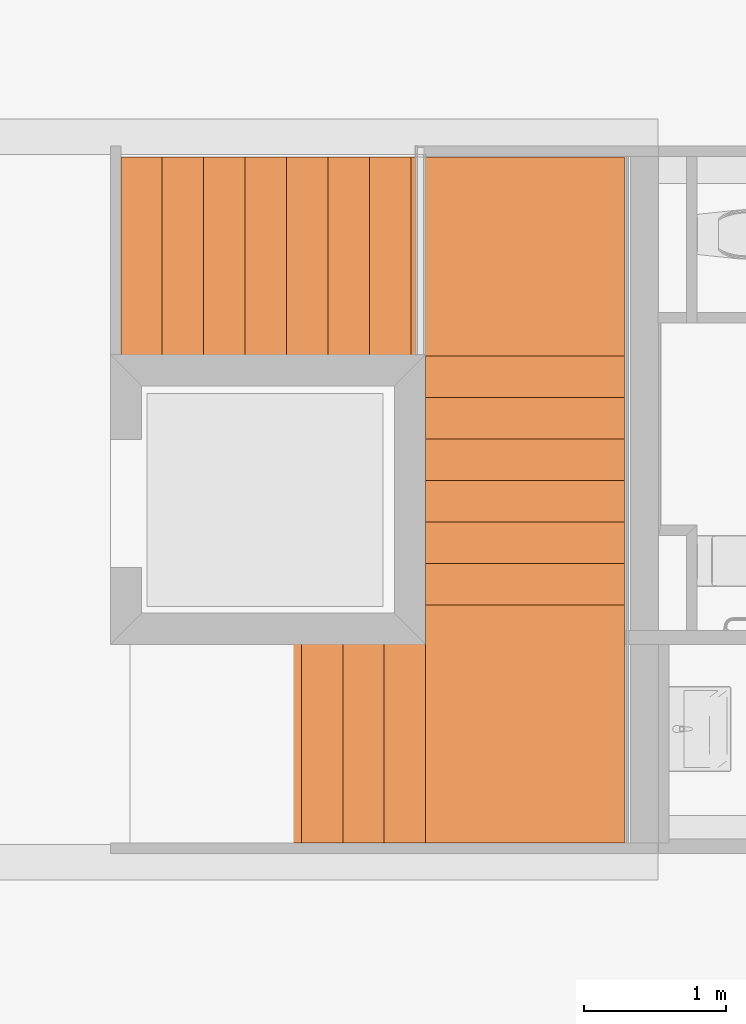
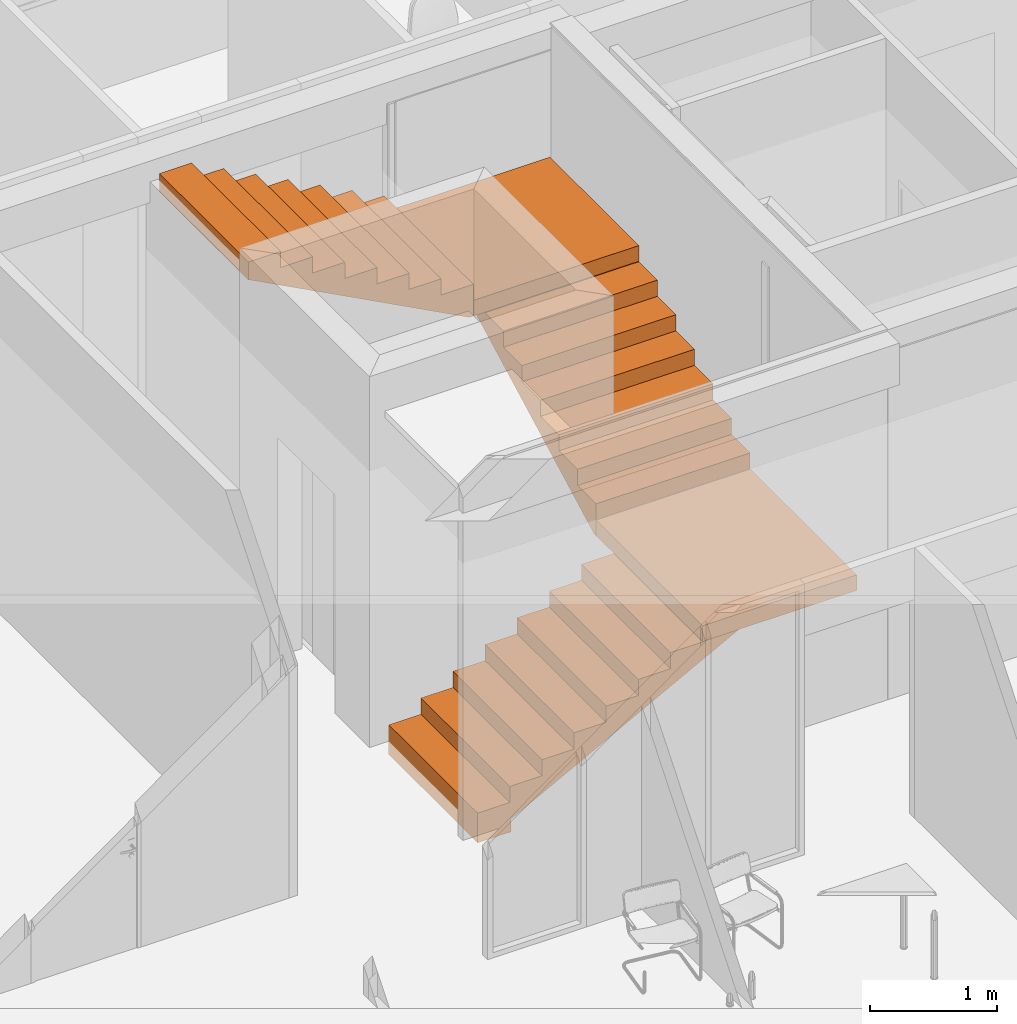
# One storey, part 90 of 91: 5 proxies, 1 element without a shape of its own.
"""IFC2X3 building model written with IfcOpenShell, lengths in metres."""

from ifc_helpers import new_model, entity, si_unit, converted_unit, derived_unit, money_unit, direction, frame, origin_with_axes, place, context, subcontext, project, spatial, faceted_brep, material, type_object, element, aggregate, save


model = new_model("IFC2X3")

# Units and contexts
model_context = context("Model", 3, precision=1e-05, world=origin_with_axes(), true_north=direction((0.0, 1.0)))
body_context = subcontext(model_context, "Body", "Model", "MODEL_VIEW")
ifc_project = project(units=[si_unit("LENGTHUNIT", "METRE"), si_unit("AREAUNIT", "SQUARE_METRE"), si_unit("VOLUMEUNIT", "CUBIC_METRE"), converted_unit("PLANEANGLEUNIT", "DEGREE", entity("IfcPlaneAngleMeasure", 0.0174532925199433), si_unit("PLANEANGLEUNIT", "RADIAN"), dimensions=[0, 0, 0, 0, 0, 0, 0]), money_unit("EUR"), converted_unit("TIMEUNIT", "Year", entity("IfcTimeMeasure", 31557600.0), si_unit("TIMEUNIT", "SECOND"), dimensions=[0, 0, 1, 0, 0, 0, 0]), si_unit("MASSUNIT", "GRAM", prefix="KILO"), si_unit("THERMODYNAMICTEMPERATUREUNIT", "DEGREE_CELSIUS"), si_unit("LUMINOUSINTENSITYUNIT", "LUMEN"), si_unit("ENERGYUNIT", "JOULE", prefix="MEGA"), derived_unit("THERMALCONDUCTANCEUNIT", [(si_unit("POWERUNIT", "WATT"), 1), (si_unit("LENGTHUNIT", "METRE"), -1), (si_unit("THERMODYNAMICTEMPERATUREUNIT", "KELVIN"), -1)]), derived_unit("SPECIFICHEATCAPACITYUNIT", [(si_unit("ENERGYUNIT", "JOULE"), 1), (si_unit("MASSUNIT", "GRAM", prefix="KILO"), -1), (si_unit("THERMODYNAMICTEMPERATUREUNIT", "KELVIN"), -1)]), derived_unit("MASSDENSITYUNIT", [(si_unit("MASSUNIT", "GRAM", prefix="KILO"), 1), (si_unit("VOLUMEUNIT", "CUBIC_METRE"), -1)])], contexts=[model_context])

# Site, building, storey
site_placement = place(None, origin_with_axes())
site = spatial("IfcSite", under=ifc_project, at=site_placement, Name="Site", CompositionType="ELEMENT")
building_placement = place(site_placement, origin_with_axes())
building = spatial("IfcBuilding", under=site, at=building_placement, Name="Bâtiment", CompositionType="ELEMENT")
storey_placement = place(building_placement, origin_with_axes())
storey = spatial("IfcBuildingStorey", under=building, at=storey_placement, Name="RDC", CompositionType="ELEMENT", Elevation=0.0)

# Proxies
building_element_proxy_type_1 = type_object("IfcBuildingElementProxyType", Name="Type d'escalier", PredefinedType="NOTDEFINED")
proxy_1_placement = place(storey_placement, frame((33.41300800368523, -20.97356469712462, 0.0), z_axis=(0.0, 0.0, 1.0), x_axis=(0.0, 1.0, 0.0)))
proxy_1 = element("IfcBuildingElementProxy", 1, at=proxy_1_placement, inside=storey, type_object=building_element_proxy_type_1, Name="ESC-004")
ifc_material = material(Name="Béton")
building_element_proxy_type_2 = type_object("IfcBuildingElementProxyType", Name="IfcBuildingElementProxy", PredefinedType="NOTDEFINED")
proxy_2_placement = place(proxy_1_placement, origin_with_axes())
proxy_2 = element("IfcBuildingElementProxy", 2, at=proxy_2_placement, type_object=building_element_proxy_type_2, material=ifc_material, Name="VOLEE-008", context=body_context, shape_type="Brep", body=[
    faceted_brep([(-0.5499972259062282, -3.000000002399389, 1.083478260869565), (0.8500027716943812, -3.000000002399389, 1.083478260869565), (0.8500027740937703, -2.708266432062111, 1.083478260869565), (-0.5499972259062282, -2.708266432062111, 1.083478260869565), (-0.5499972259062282, -3.000000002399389, 1.088260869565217), (0.8500027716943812, -3.000000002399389, 1.088260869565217), (0.8500027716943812, -3.000000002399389, 0.9136735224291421), (0.8500027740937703, -2.902755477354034, 0.8620793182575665), (0.8500027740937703, -2.805510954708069, 0.8104851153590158), (0.8500027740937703, -2.708266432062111, 0.7588909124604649), (0.8500027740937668, -2.611021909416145, 0.7072967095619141), (0.8500027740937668, -2.51377738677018, 0.6557025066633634), (0.8500027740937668, -2.416532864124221, 0.6041083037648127), (0.8500027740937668, -2.319288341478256, 0.5525141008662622), (0.8500027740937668, -2.22204381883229, 0.5009198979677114), (0.8500027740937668, -2.124799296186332, 0.4493256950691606), (0.8500027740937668, -2.027554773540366, 0.3977314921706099), (0.8500027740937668, -1.930310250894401, 0.3461372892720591), (0.8500027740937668, -1.833065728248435, 0.2945430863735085), (0.8500027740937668, -1.735821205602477, 0.2429488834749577), (0.8500027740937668, -1.638576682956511, 0.191354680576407), (0.8500027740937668, -1.541332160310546, 0.1397604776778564), (0.8500027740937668, -1.444087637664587, 0.0881662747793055), (0.8500027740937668, -1.346843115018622, 0.03657207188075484), (0.8500027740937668, -1.257865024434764, -0.01063628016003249), (0.8500027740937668, -1.257865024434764, -0.13), (0.8500027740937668, -0.9578650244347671, -0.13), (0.8500027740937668, -0.9578650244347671, 0.1547826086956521), (0.8500027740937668, -1.249598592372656, 0.1547826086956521), (0.8500027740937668, -1.249598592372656, 0.3095652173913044), (0.8500027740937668, -1.541332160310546, 0.3095652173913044), (0.8500027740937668, -1.541332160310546, 0.4643478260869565), (0.8500027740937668, -1.833065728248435, 0.4643478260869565), (0.8500027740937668, -1.833065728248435, 0.6191304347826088), (0.8500027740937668, -2.124799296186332, 0.6191304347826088), (0.8500027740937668, -2.124799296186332, 0.7739130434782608), (0.8500027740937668, -2.416532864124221, 0.7739130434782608), (0.8500027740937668, -2.416532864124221, 0.9286956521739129), (0.8500027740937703, -2.708266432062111, 0.9286956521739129), (0.8500027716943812, -3.329061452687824, 1.088260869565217), (-0.5499972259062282, -2.708266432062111, 0.9286956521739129), (-0.5499972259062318, -2.416532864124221, 0.9286956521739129), (-0.5499972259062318, -2.416532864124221, 0.7739130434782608), (-0.5499972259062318, -2.124799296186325, 0.7739130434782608), (-0.5499972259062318, -2.124799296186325, 0.6191304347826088), (-0.5499972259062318, -1.833065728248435, 0.6191304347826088), (-0.5499972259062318, -1.833065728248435, 0.4643478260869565), (-0.5499972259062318, -1.541332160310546, 0.4643478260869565), (-0.5499972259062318, -1.541332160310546, 0.3095652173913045), (-0.5499972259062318, -1.249598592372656, 0.3095652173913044), (-0.5499972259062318, -1.249598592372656, 0.1547826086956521), (-0.5499972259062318, -0.9578650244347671, 0.1547826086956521), (-0.5499972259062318, -0.9578650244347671, -0.13), (-0.5499972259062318, -1.257865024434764, -0.13), (-0.5499972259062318, -1.257865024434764, -0.01063628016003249), (-0.5499972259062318, -1.346843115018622, 0.03657207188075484), (-0.5499972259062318, -1.444087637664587, 0.0881662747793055), (-0.5499972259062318, -1.541332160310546, 0.1397604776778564), (-0.5499972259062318, -1.638576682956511, 0.191354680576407), (-0.5499972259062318, -1.735821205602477, 0.2429488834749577), (-0.5499972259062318, -1.833065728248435, 0.2945430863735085), (-0.5499972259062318, -1.930310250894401, 0.3461372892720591), (-0.5499972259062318, -2.027554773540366, 0.3977314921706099), (-0.5499972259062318, -2.124799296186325, 0.4493256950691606), (-0.5499972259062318, -2.22204381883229, 0.5009198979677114), (-0.5499972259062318, -2.319288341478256, 0.5525141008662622), (-0.5499972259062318, -2.416532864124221, 0.6041083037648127), (-0.5499972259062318, -2.51377738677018, 0.6557025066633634), (-0.5499972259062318, -2.611021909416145, 0.7072967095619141), (-0.5499972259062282, -2.708266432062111, 0.7588909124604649), (-0.5499972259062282, -2.805510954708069, 0.8104851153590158), (-0.5499972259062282, -2.902755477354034, 0.8620793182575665), (-0.5499972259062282, -3.000000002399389, 0.9136735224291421), (-0.5499972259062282, -3.329061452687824, 1.088260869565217)], [[[0, 1, 2, 3]], [[1, 0, 4, 5]], [[6, 7, 8, 9, 10, 11, 12, 13, 14, 15, 16, 17, 18, 19, 20, 21, 22, 23, 24, 25, 26, 27, 28, 29, 30, 31, 32, 33, 34, 35, 36, 37, 38, 2, 1, 5, 39]], [[40, 3, 2, 38]], [[0, 3, 40, 41, 42, 43, 44, 45, 46, 47, 48, 49, 50, 51, 52, 53, 54, 55, 56, 57, 58, 59, 60, 61, 62, 63, 64, 65, 66, 67, 68, 69, 70, 71, 72, 73, 4]], [[39, 5, 4, 73]], [[72, 71, 7, 6, 39, 73]], [[71, 70, 8, 7]], [[70, 69, 9, 8]], [[69, 68, 10, 9]], [[68, 67, 11, 10]], [[67, 66, 12, 11]], [[66, 65, 13, 12]], [[65, 64, 14, 13]], [[64, 63, 15, 14]], [[63, 62, 16, 15]], [[62, 61, 17, 16]], [[61, 60, 18, 17]], [[60, 59, 19, 18]], [[59, 58, 20, 19]], [[58, 57, 21, 20]], [[57, 56, 22, 21]], [[56, 55, 23, 22]], [[55, 54, 24, 23]], [[25, 24, 54, 53]], [[25, 53, 52, 26]], [[51, 27, 26, 52]], [[28, 27, 51, 50]], [[50, 49, 29, 28]], [[30, 29, 49, 48]], [[48, 47, 31, 30]], [[32, 31, 47, 46]], [[46, 45, 33, 32]], [[34, 33, 45, 44]], [[44, 43, 35, 34]], [[36, 35, 43, 42]], [[42, 41, 37, 36]], [[38, 37, 41, 40]]]),
])
proxy_3_placement = place(proxy_1_placement, origin_with_axes())
proxy_3 = element("IfcBuildingElementProxy", 3, at=proxy_3_placement, type_object=building_element_proxy_type_2, material=ifc_material, Name="VOLEE-010", context=body_context, shape_type="Brep", body=[
    faceted_brep([(2.876000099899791, -4.399999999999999, 2.16695652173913), (2.876000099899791, -2.999999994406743, 2.16695652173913), (2.584266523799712, -3.0, 2.16695652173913), (2.584266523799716, -4.399999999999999, 2.16695652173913), (2.876000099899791, -4.399999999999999, 2.171739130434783), (2.876000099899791, -2.999999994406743, 2.171739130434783), (2.876000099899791, -2.999999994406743, 1.997151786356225), (2.77875556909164, -3.0, 1.945557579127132), (2.681511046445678, -3.0, 1.893963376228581), (2.584266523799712, -3.0, 1.84236917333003), (2.48702200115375, -3.0, 1.790774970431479), (2.389777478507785, -3.0, 1.739180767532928), (2.292532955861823, -3.0, 1.687586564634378), (2.195288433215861, -3.0, 1.635992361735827), (2.098043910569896, -3.0, 1.584398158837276), (2.000799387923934, -3.0, 1.532803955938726), (1.903554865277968, -3.0, 1.481209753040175), (1.806310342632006, -3.0, 1.429615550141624), (1.709065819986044, -3.0, 1.378021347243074), (1.611821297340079, -3.0, 1.326427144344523), (1.514576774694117, -3.0, 1.274832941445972), (1.417332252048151, -3.0, 1.223238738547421), (1.320087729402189, -3.0, 1.171644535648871), (1.222843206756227, -3.0, 1.12005033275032), (1.162926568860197, -3.0, 1.088260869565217), (1.125598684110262, -3.0, 1.088260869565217), (1.125598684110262, -3.0, 1.393043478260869), (1.417332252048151, -3.0, 1.393043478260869), (1.417332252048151, -3.0, 1.547826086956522), (1.709065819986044, -3.0, 1.547826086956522), (1.709065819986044, -3.0, 1.702608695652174), (2.000799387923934, -3.0, 1.702608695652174), (2.000799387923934, -3.0, 1.857391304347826), (2.292532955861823, -3.0, 1.857391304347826), (2.292532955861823, -3.0, 2.012173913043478), (2.584266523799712, -3.0, 2.012173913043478), (3.205061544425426, -2.999999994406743, 2.171739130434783), (2.584266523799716, -4.399999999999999, 2.012173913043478), (2.292532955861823, -4.399999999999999, 2.012173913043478), (2.292532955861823, -4.399999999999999, 1.857391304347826), (2.000799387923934, -4.399999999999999, 1.857391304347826), (2.000799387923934, -4.399999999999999, 1.702608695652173), (1.709065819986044, -4.399999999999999, 1.702608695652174), (1.709065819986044, -4.399999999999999, 1.547826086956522), (1.417332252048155, -4.399999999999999, 1.547826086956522), (1.417332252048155, -4.399999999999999, 1.393043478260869), (1.125598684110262, -4.399999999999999, 1.393043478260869), (1.125598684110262, -4.399999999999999, 1.088260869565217), (1.162926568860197, -4.399999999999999, 1.088260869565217), (1.222843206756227, -4.399999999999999, 1.12005033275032), (1.320087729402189, -4.399999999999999, 1.171644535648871), (1.417332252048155, -4.399999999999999, 1.223238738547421), (1.514576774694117, -4.399999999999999, 1.274832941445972), (1.611821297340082, -4.399999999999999, 1.326427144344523), (1.709065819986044, -4.399999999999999, 1.378021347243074), (1.806310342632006, -4.399999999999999, 1.429615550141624), (1.903554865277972, -4.399999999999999, 1.481209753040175), (2.000799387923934, -4.399999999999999, 1.532803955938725), (2.098043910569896, -4.399999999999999, 1.584398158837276), (2.195288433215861, -4.399999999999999, 1.635992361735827), (2.292532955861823, -4.399999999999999, 1.687586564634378), (2.389777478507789, -4.399999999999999, 1.739180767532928), (2.48702200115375, -4.399999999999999, 1.790774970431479), (2.584266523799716, -4.399999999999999, 1.84236917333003), (2.681511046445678, -4.399999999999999, 1.893963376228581), (2.77875556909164, -4.399999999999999, 1.945557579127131), (2.876000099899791, -4.399999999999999, 1.997151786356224), (3.20506154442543, -4.399999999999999, 2.171739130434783)], [[[0, 1, 2, 3]], [[1, 0, 4, 5]], [[6, 7, 8, 9, 10, 11, 12, 13, 14, 15, 16, 17, 18, 19, 20, 21, 22, 23, 24, 25, 26, 27, 28, 29, 30, 31, 32, 33, 34, 35, 2, 1, 5, 36]], [[3, 2, 35, 37]], [[0, 3, 37, 38, 39, 40, 41, 42, 43, 44, 45, 46, 47, 48, 49, 50, 51, 52, 53, 54, 55, 56, 57, 58, 59, 60, 61, 62, 63, 64, 65, 66, 67, 4]], [[67, 36, 5, 4]], [[66, 65, 7, 6, 36, 67]], [[64, 8, 7, 65]], [[63, 9, 8, 64]], [[62, 10, 9, 63]], [[61, 11, 10, 62]], [[60, 12, 11, 61]], [[59, 13, 12, 60]], [[58, 14, 13, 59]], [[57, 15, 14, 58]], [[56, 16, 15, 57]], [[55, 17, 16, 56]], [[54, 18, 17, 55]], [[53, 19, 18, 54]], [[52, 20, 19, 53]], [[51, 21, 20, 52]], [[50, 22, 21, 51]], [[49, 23, 22, 50]], [[48, 24, 23, 49]], [[47, 25, 24, 48]], [[25, 47, 46, 26]], [[26, 46, 45, 27]], [[44, 28, 27, 45]], [[28, 44, 43, 29]], [[42, 30, 29, 43]], [[30, 42, 41, 31]], [[40, 32, 31, 41]], [[32, 40, 39, 33]], [[38, 34, 33, 39]], [[34, 38, 37, 35]]]),
])
proxy_4_placement = place(proxy_1_placement, origin_with_axes())
proxy_4 = element("IfcBuildingElementProxy", 4, at=proxy_4_placement, type_object=building_element_proxy_type_2, material=ifc_material, Name="PALIER-003", context=body_context, shape_type="Brep", body=[
    faceted_brep([(-0.5499972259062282, -3.000000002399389, 1.088260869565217), (-0.5499972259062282, -4.399999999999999, 1.088260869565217), (-0.5499972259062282, -4.399999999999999, 1.238260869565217), (-0.5499972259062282, -3.000000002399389, 1.238260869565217), (0.8500027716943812, -3.000000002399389, 1.088260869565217), (1.125598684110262, -3.000000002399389, 1.088260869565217), (1.125598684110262, -4.399999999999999, 1.088260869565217), (1.125598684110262, -4.399999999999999, 1.238260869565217), (1.125598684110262, -3.000000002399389, 1.238260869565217), (0.8500027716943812, -3.000000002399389, 1.238260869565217)], [[[0, 1, 2, 3]], [[0, 4, 5, 6, 1]], [[1, 6, 7, 2]], [[3, 2, 7, 8, 9]], [[4, 0, 3, 9]], [[5, 4, 9, 8]], [[6, 5, 8, 7]]]),
])
proxy_5_placement = place(proxy_1_placement, origin_with_axes())
proxy_5 = element("IfcBuildingElementProxy", 5, at=proxy_5_placement, type_object=building_element_proxy_type_2, material=ifc_material, Name="PALIER-004", context=body_context, shape_type="Brep", body=[
    faceted_brep([(2.876000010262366, -2.896136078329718, 2.171739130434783), (2.876000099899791, -2.999999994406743, 2.171739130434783), (2.876000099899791, -2.999999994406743, 2.321739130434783), (2.876000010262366, -2.896136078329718, 2.321739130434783), (4.276000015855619, -2.896134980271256, 2.171739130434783), (4.276001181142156, -4.399999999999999, 2.171739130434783), (2.876000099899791, -4.399999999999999, 2.171739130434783), (2.876000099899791, -4.399999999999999, 2.321739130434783), (4.276001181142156, -4.399999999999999, 2.321739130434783), (4.276000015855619, -2.896134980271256, 2.321739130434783)], [[[0, 1, 2, 3]], [[0, 4, 5, 6, 1]], [[1, 6, 7, 2]], [[3, 2, 7, 8, 9]], [[4, 0, 3, 9]], [[5, 4, 9, 8]], [[6, 5, 8, 7]]]),
])
proxy_6_placement = place(proxy_1_placement, origin_with_axes())
proxy_6 = element("IfcBuildingElementProxy", 6, at=proxy_6_placement, type_object=building_element_proxy_type_2, material=ifc_material, Name="VOLEE-009", context=body_context, shape_type="Brep", body=[
    faceted_brep([(2.875998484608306, -0.9512456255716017, 3.183818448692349), (2.875998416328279, -0.8642028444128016, 3.23), (4.275998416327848, -0.8642017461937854, 3.23), (4.275998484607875, -0.9512445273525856, 3.183818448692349), (2.875998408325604, -0.8540011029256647, 3.23), (2.875998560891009, -1.048490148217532, 3.132224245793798), (2.875998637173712, -1.145734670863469, 3.080630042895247), (2.875998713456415, -1.242979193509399, 3.029035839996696), (2.875998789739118, -1.340223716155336, 2.977441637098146), (2.875998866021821, -1.437468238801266, 2.925847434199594), (2.875998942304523, -1.534712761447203, 2.874253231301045), (2.875999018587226, -1.631957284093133, 2.822659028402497), (2.875999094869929, -1.72920180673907, 2.771064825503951), (2.875999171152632, -1.826446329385, 2.71947062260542), (2.875999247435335, -1.923690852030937, 2.667876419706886), (2.875999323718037, -2.020935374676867, 2.616282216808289), (2.87599940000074, -2.118179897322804, 2.56468801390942), (2.875999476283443, -2.215424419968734, 2.513093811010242), (2.875999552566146, -2.312668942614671, 2.461499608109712), (2.875999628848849, -2.409913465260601, 2.409905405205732), (2.875999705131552, -2.507157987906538, 2.358311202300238), (2.875999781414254, -2.604402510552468, 2.306716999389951), (2.875999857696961, -2.701647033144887, 2.255122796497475), (2.875999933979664, -2.798891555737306, 2.203528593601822), (2.875999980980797, -2.85880819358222, 2.171739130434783), (2.876000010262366, -2.896136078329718, 2.171739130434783), (2.876000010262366, -2.896136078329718, 2.476521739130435), (2.875999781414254, -2.604402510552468, 2.476521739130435), (2.875999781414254, -2.604402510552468, 2.631304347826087), (2.875999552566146, -2.312668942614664, 2.631304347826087), (2.875999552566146, -2.312668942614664, 2.786086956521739), (2.875999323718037, -2.020935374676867, 2.786086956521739), (2.875999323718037, -2.020935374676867, 2.940869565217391), (2.875999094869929, -1.72920180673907, 2.940869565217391), (2.875999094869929, -1.72920180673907, 3.095652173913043), (2.875998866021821, -1.437468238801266, 3.095652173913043), (2.875998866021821, -1.437468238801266, 3.250434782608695), (2.875998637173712, -1.145734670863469, 3.250434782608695), (2.875998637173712, -1.145734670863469, 3.405217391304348), (2.875998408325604, -0.8540011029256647, 3.405217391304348), (2.875998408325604, -0.8540011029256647, 3.2354126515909), (4.275998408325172, -0.8540000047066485, 3.23), (4.275998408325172, -0.8540000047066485, 3.235412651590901), (4.275998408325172, -0.8540000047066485, 3.405217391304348), (4.275998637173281, -1.145733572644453, 3.405217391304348), (4.275998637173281, -1.145733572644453, 3.250434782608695), (4.275998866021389, -1.437467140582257, 3.250434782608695), (4.275998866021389, -1.437467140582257, 3.095652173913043), (4.275999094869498, -1.729200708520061, 3.095652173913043), (4.275999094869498, -1.729200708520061, 2.940869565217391), (4.275999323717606, -2.020934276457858, 2.940869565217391), (4.275999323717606, -2.020934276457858, 2.786086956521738), (4.275999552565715, -2.312667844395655, 2.786086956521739), (4.275999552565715, -2.312667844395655, 2.631304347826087), (4.275999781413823, -2.604401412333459, 2.631304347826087), (4.275999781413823, -2.604401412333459, 2.476521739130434), (4.276000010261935, -2.896134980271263, 2.476521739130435), (4.276000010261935, -2.896134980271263, 2.171739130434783), (4.275999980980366, -2.85880709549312, 2.171739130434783), (4.275999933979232, -2.798890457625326, 2.203528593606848), (4.275999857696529, -2.701645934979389, 2.25512279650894), (4.275999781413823, -2.604401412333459, 2.306716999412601), (4.27599970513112, -2.507156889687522, 2.358311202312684), (4.275999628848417, -2.409912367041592, 2.409905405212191), (4.275999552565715, -2.312667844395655, 2.461499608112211), (4.275999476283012, -2.215423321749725, 2.513093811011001), (4.275999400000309, -2.118178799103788, 2.564688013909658), (4.275999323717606, -2.020934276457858, 2.616282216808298), (4.275999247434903, -1.923689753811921, 2.667876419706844), (4.275999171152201, -1.826445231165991, 2.719470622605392), (4.275999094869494, -1.729200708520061, 2.771064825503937), (4.275999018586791, -1.631956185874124, 2.822659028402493), (4.275998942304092, -1.534711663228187, 2.874253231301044), (4.275998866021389, -1.437467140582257, 2.925847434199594), (4.275998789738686, -1.34022261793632, 2.977441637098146), (4.275998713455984, -1.24297809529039, 3.029035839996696), (4.275998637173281, -1.145733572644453, 3.080630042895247), (4.275998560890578, -1.048489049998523, 3.132224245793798)], [[[0, 1, 2, 3]], [[4, 1, 0, 5, 6, 7, 8, 9, 10, 11, 12, 13, 14, 15, 16, 17, 18, 19, 20, 21, 22, 23, 24, 25, 26, 27, 28, 29, 30, 31, 32, 33, 34, 35, 36, 37, 38, 39, 40]], [[41, 2, 1, 4]], [[41, 42, 43, 44, 45, 46, 47, 48, 49, 50, 51, 52, 53, 54, 55, 56, 57, 58, 59, 60, 61, 62, 63, 64, 65, 66, 67, 68, 69, 70, 71, 72, 73, 74, 75, 76, 77, 3, 2]], [[5, 0, 3, 77]], [[6, 5, 77, 76]], [[7, 6, 76, 75]], [[8, 7, 75, 74]], [[9, 8, 74, 73]], [[10, 9, 73, 72]], [[11, 10, 72, 71]], [[12, 11, 71, 70]], [[13, 12, 70, 69]], [[14, 13, 69, 68]], [[15, 14, 68, 67]], [[16, 15, 67, 66]], [[17, 16, 66, 65]], [[18, 17, 65, 64]], [[19, 18, 64, 63]], [[20, 19, 63, 62]], [[21, 20, 62, 61]], [[22, 21, 61, 60]], [[23, 22, 60, 59]], [[24, 23, 59, 58]], [[24, 58, 57, 25]], [[26, 25, 57, 56]], [[27, 26, 56, 55]], [[55, 54, 28, 27]], [[29, 28, 54, 53]], [[53, 52, 30, 29]], [[31, 30, 52, 51]], [[51, 50, 32, 31]], [[33, 32, 50, 49]], [[49, 48, 34, 33]], [[35, 34, 48, 47]], [[47, 46, 36, 35]], [[37, 36, 46, 45]], [[45, 44, 38, 37]], [[38, 44, 43, 39]], [[43, 42, 40, 39]], [[4, 40, 42, 41]]]),
])
aggregate(proxy_1, [proxy_2, proxy_3, proxy_4, proxy_5, proxy_6])

save(model, "model.ifc")
